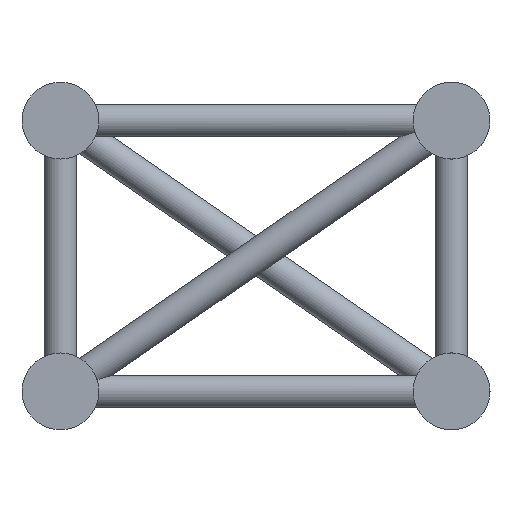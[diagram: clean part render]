
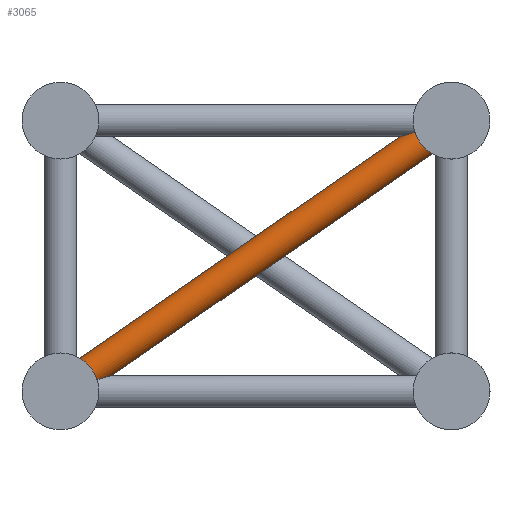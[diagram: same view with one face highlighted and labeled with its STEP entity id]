
A CAD part, left-side view. The second image highlights one B-rep face of the part: STEP entity #3065.
In plain terms, the highlighted cylindrical face has radius 12.5 mm (diameter 25 mm), a full revolution.
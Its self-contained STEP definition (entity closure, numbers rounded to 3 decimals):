
#23=ELLIPSE('',#3337,41.923,12.5);
#24=ELLIPSE('',#3339,41.923,12.5);
#133=FACE_BOUND('',#820,.T.);
#501=FACE_OUTER_BOUND('',#819,.T.);
#819=EDGE_LOOP('',(#2229,#2230));
#820=EDGE_LOOP('',(#2231,#2232));
#1137=CIRCLE('',#3338,12.5);
#1138=CIRCLE('',#3340,12.5);
#1523=VERTEX_POINT('',#7570);
#1524=VERTEX_POINT('',#7571);
#1525=VERTEX_POINT('',#7574);
#1526=VERTEX_POINT('',#7575);
#1779=EDGE_CURVE('',#1523,#1524,#23,.T.);
#1780=EDGE_CURVE('',#1524,#1523,#1137,.T.);
#1781=EDGE_CURVE('',#1525,#1526,#24,.T.);
#1782=EDGE_CURVE('',#1526,#1525,#1138,.T.);
#2229=ORIENTED_EDGE('',*,*,#1779,.F.);
#2230=ORIENTED_EDGE('',*,*,#1780,.F.);
#2231=ORIENTED_EDGE('',*,*,#1781,.F.);
#2232=ORIENTED_EDGE('',*,*,#1782,.F.);
#2729=CYLINDRICAL_SURFACE('',#3336,12.5);
#3065=ADVANCED_FACE('',(#501,#133),#2729,.T.);
#3336=AXIS2_PLACEMENT_3D('',#7569,#3874,#3875);
#3337=AXIS2_PLACEMENT_3D('',#7572,#3876,#3877);
#3338=AXIS2_PLACEMENT_3D('',#7573,#3878,#3879);
#3339=AXIS2_PLACEMENT_3D('',#7576,#3880,#3881);
#3340=AXIS2_PLACEMENT_3D('',#7577,#3882,#3883);
#3874=DIRECTION('center_axis',(0.,-0.822,
0.569));
#3875=DIRECTION('ref_axis',(1.,0.,0.));
#3876=DIRECTION('center_axis',(0.,0.298,
0.955));
#3877=DIRECTION('ref_axis',(0.,0.955,-0.298));
#3878=DIRECTION('center_axis',(0.,-0.822,
0.569));
#3879=DIRECTION('ref_axis',(1.,0.,0.));
#3880=DIRECTION('center_axis',(0.,-0.298,
-0.955));
#3881=DIRECTION('ref_axis',(0.,0.955,-0.298));
#3882=DIRECTION('center_axis',(0.,0.822,-0.569));
#3883=DIRECTION('ref_axis',(1.,0.,0.));
#7569=CARTESIAN_POINT('Origin',(92.5,278.173,-192.581));
#7570=CARTESIAN_POINT('',(102.177,25.331,-7.913));
#7571=CARTESIAN_POINT('',(82.823,25.331,-7.913));
#7572=CARTESIAN_POINT('Origin',(92.5,0.,
0.));
#7573=CARTESIAN_POINT('Origin',(92.5,20.827,-14.419));
#7574=CARTESIAN_POINT('',(102.177,273.669,-199.087));
#7575=CARTESIAN_POINT('',(82.823,273.669,-199.087));
#7576=CARTESIAN_POINT('Origin',(92.5,299.,-207.));
#7577=CARTESIAN_POINT('Origin',(92.5,278.173,-192.581));
